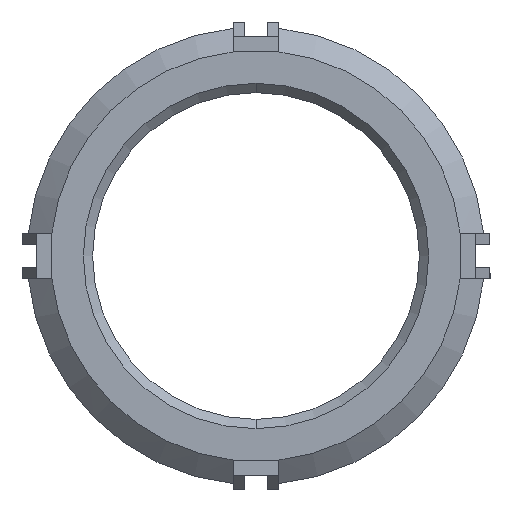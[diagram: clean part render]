
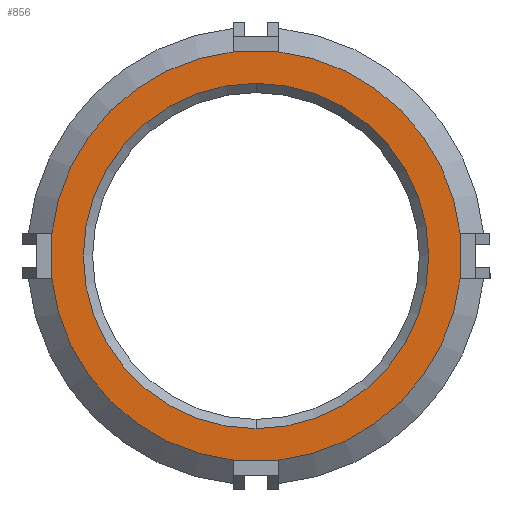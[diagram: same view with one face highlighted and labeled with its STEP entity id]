
A CAD part, front view. The second image highlights one B-rep face of the part: STEP entity #856.
In plain terms, the highlighted planar face has unit normal (0, -1, 0).
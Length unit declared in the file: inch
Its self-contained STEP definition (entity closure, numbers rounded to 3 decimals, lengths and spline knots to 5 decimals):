
#94 = LINE ( 'NONE', #6213, #5897 ) ;
#152 = CARTESIAN_POINT ( 'NONE',  ( 0., 0., -0.33036 ) ) ;
#184 = VERTEX_POINT ( 'NONE', #784 ) ;
#253 = ORIENTED_EDGE ( 'NONE', *, *, #6460, .T. ) ;
#310 = DIRECTION ( 'NONE',  ( 0., 0., -1. ) ) ;
#376 = CARTESIAN_POINT ( 'NONE',  ( -0.39045, 0., -0.04375 ) ) ;
#574 = DIRECTION ( 'NONE',  ( 0., 1., 0. ) ) ;
#631 = ORIENTED_EDGE ( 'NONE', *, *, #3036, .F. ) ;
#668 = DIRECTION ( 'NONE',  ( 0., 0., 1. ) ) ;
#720 = VERTEX_POINT ( 'NONE', #2954 ) ;
#784 = CARTESIAN_POINT ( 'NONE',  ( -0.04375, 0., -0.39045 ) ) ;
#855 = DIRECTION ( 'NONE',  ( 0., 0., 1. ) ) ;
#856 = ADVANCED_FACE ( 'NONE', ( #3176, #2136 ), #4274, .F. ) ;
#886 = CARTESIAN_POINT ( 'NONE',  ( 0., 0., 0. ) ) ;
#964 = CARTESIAN_POINT ( 'NONE',  ( -0.39045, 0., 0.04375 ) ) ;
#1146 = DIRECTION ( 'NONE',  ( 0., -1., 0. ) ) ;
#1149 = EDGE_LOOP ( 'NONE', ( #6211, #1841, #2206, #4675, #6318, #631, #5730, #2519 ) ) ;
#1281 = EDGE_CURVE ( 'NONE', #6261, #2566, #94, .T. ) ;
#1302 = CIRCLE ( 'NONE', #5686, 0.33036 ) ;
#1338 = ORIENTED_EDGE ( 'NONE', *, *, #1964, .T. ) ;
#1355 = DIRECTION ( 'NONE',  ( 0., 0., -1. ) ) ;
#1630 = DIRECTION ( 'NONE',  ( 0., 0., 1. ) ) ;
#1736 = VECTOR ( 'NONE', #2344, 39.37008 ) ;
#1841 = ORIENTED_EDGE ( 'NONE', *, *, #1281, .F. ) ;
#1964 = EDGE_CURVE ( 'NONE', #3707, #4732, #1302, .T. ) ;
#1977 = CARTESIAN_POINT ( 'NONE',  ( 0.39045, 0., 0.04375 ) ) ;
#2075 = EDGE_CURVE ( 'NONE', #2226, #2782, #3020, .T. ) ;
#2120 = CARTESIAN_POINT ( 'NONE',  ( 0., 0., 0. ) ) ;
#2136 = FACE_OUTER_BOUND ( 'NONE', #1149, .T. ) ;
#2206 = ORIENTED_EDGE ( 'NONE', *, *, #3866, .T. ) ;
#2219 = VERTEX_POINT ( 'NONE', #3003 ) ;
#2226 = VERTEX_POINT ( 'NONE', #1977 ) ;
#2344 = DIRECTION ( 'NONE',  ( 0., 0., -1. ) ) ;
#2362 = CARTESIAN_POINT ( 'NONE',  ( 0.04375, 0., 0.39045 ) ) ;
#2370 = DIRECTION ( 'NONE',  ( 0., 0., 1. ) ) ;
#2392 = DIRECTION ( 'NONE',  ( 0., 1., 0. ) ) ;
#2420 = AXIS2_PLACEMENT_3D ( 'NONE', #886, #3885, #5893 ) ;
#2519 = ORIENTED_EDGE ( 'NONE', *, *, #3015, .F. ) ;
#2566 = VERTEX_POINT ( 'NONE', #964 ) ;
#2615 = CIRCLE ( 'NONE', #6359, 0.33036 ) ;
#2644 = CARTESIAN_POINT ( 'NONE',  ( 0., 0., 0. ) ) ;
#2725 = CARTESIAN_POINT ( 'NONE',  ( 0.04375, 0., -0.39045 ) ) ;
#2782 = VERTEX_POINT ( 'NONE', #2362 ) ;
#2819 = CIRCLE ( 'NONE', #3354, 0.39289 ) ;
#2853 = CARTESIAN_POINT ( 'NONE',  ( 0., 0., 0. ) ) ;
#2954 = CARTESIAN_POINT ( 'NONE',  ( 0.39045, 0., -0.04375 ) ) ;
#3003 = CARTESIAN_POINT ( 'NONE',  ( -0.04375, 0., 0.39045 ) ) ;
#3015 = EDGE_CURVE ( 'NONE', #2219, #2782, #4532, .T. ) ;
#3020 = CIRCLE ( 'NONE', #3226, 0.39289 ) ;
#3036 = EDGE_CURVE ( 'NONE', #2226, #720, #3995, .T. ) ;
#3093 = CARTESIAN_POINT ( 'NONE',  ( 0., 0., 0.33036 ) ) ;
#3176 = FACE_BOUND ( 'NONE', #4704, .T. ) ;
#3215 = DIRECTION ( 'NONE',  ( 0., 0., -1. ) ) ;
#3226 = AXIS2_PLACEMENT_3D ( 'NONE', #5345, #4811, #310 ) ;
#3246 = CIRCLE ( 'NONE', #5276, 0.39289 ) ;
#3353 = VECTOR ( 'NONE', #5995, 39.37008 ) ;
#3354 = AXIS2_PLACEMENT_3D ( 'NONE', #2120, #1146, #3215 ) ;
#3706 = VERTEX_POINT ( 'NONE', #2725 ) ;
#3707 = VERTEX_POINT ( 'NONE', #152 ) ;
#3866 = EDGE_CURVE ( 'NONE', #6261, #184, #3246, .T. ) ;
#3885 = DIRECTION ( 'NONE',  ( 0., -1., 0. ) ) ;
#3893 = CARTESIAN_POINT ( 'NONE',  ( 0., 0., 0. ) ) ;
#3995 = LINE ( 'NONE', #6534, #1736 ) ;
#4132 = EDGE_CURVE ( 'NONE', #2219, #2566, #2819, .T. ) ;
#4274 = PLANE ( 'NONE',  #6436 ) ;
#4444 = CIRCLE ( 'NONE', #2420, 0.39289 ) ;
#4487 = LINE ( 'NONE', #4957, #3353 ) ;
#4497 = DIRECTION ( 'NONE',  ( 1., 0., 0. ) ) ;
#4532 = LINE ( 'NONE', #5001, #6136 ) ;
#4675 = ORIENTED_EDGE ( 'NONE', *, *, #5840, .F. ) ;
#4704 = EDGE_LOOP ( 'NONE', ( #1338, #253 ) ) ;
#4732 = VERTEX_POINT ( 'NONE', #3093 ) ;
#4811 = DIRECTION ( 'NONE',  ( 0., -1., 0. ) ) ;
#4957 = CARTESIAN_POINT ( 'NONE',  ( -0.04375, 0., -0.39045 ) ) ;
#5001 = CARTESIAN_POINT ( 'NONE',  ( 0.04375, 0., 0.39045 ) ) ;
#5276 = AXIS2_PLACEMENT_3D ( 'NONE', #3893, #5943, #1355 ) ;
#5321 = EDGE_CURVE ( 'NONE', #3706, #720, #4444, .T. ) ;
#5345 = CARTESIAN_POINT ( 'NONE',  ( 0., 0., 0. ) ) ;
#5686 = AXIS2_PLACEMENT_3D ( 'NONE', #2644, #6292, #668 ) ;
#5730 = ORIENTED_EDGE ( 'NONE', *, *, #2075, .T. ) ;
#5840 = EDGE_CURVE ( 'NONE', #3706, #184, #4487, .T. ) ;
#5893 = DIRECTION ( 'NONE',  ( 0., 0., -1. ) ) ;
#5897 = VECTOR ( 'NONE', #2370, 39.37008 ) ;
#5943 = DIRECTION ( 'NONE',  ( 0., -1., 0. ) ) ;
#5995 = DIRECTION ( 'NONE',  ( -1., 0., 0. ) ) ;
#6136 = VECTOR ( 'NONE', #4497, 39.37008 ) ;
#6211 = ORIENTED_EDGE ( 'NONE', *, *, #4132, .T. ) ;
#6213 = CARTESIAN_POINT ( 'NONE',  ( -0.39045, 0., 0.04375 ) ) ;
#6261 = VERTEX_POINT ( 'NONE', #376 ) ;
#6292 = DIRECTION ( 'NONE',  ( 0., 1., 0. ) ) ;
#6318 = ORIENTED_EDGE ( 'NONE', *, *, #5321, .T. ) ;
#6321 = CARTESIAN_POINT ( 'NONE',  ( 0., 0., 0. ) ) ;
#6359 = AXIS2_PLACEMENT_3D ( 'NONE', #2853, #2392, #855 ) ;
#6436 = AXIS2_PLACEMENT_3D ( 'NONE', #6321, #574, #1630 ) ;
#6460 = EDGE_CURVE ( 'NONE', #4732, #3707, #2615, .T. ) ;
#6534 = CARTESIAN_POINT ( 'NONE',  ( 0.39045, 0., -0.04375 ) ) ;
